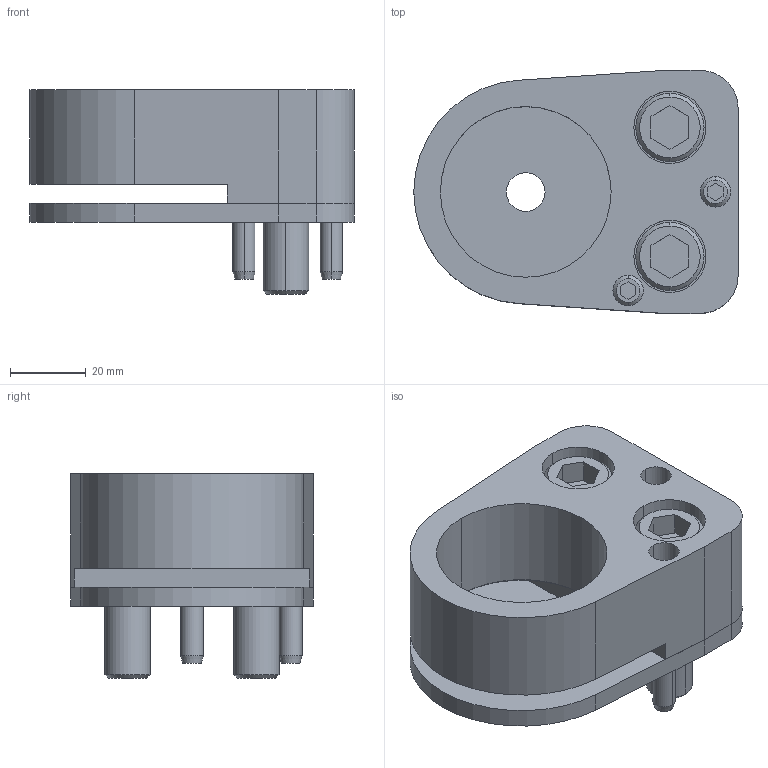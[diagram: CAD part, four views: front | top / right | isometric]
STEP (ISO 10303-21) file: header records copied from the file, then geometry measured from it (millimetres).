
FILE_DESCRIPTION(/* description */ (''),/* implementation_level */ '2;1');
FILE_NAME(/* name */ '3d_dp-fp45_02833_r00.stp',/* time_stamp */ '2011-01-10T14:15:55+09:00',/* author */ ('MISUMI'),/* organization */ (''),/* preprocessor_version */ 'ST-DEVELOPER v11',/* originating_system */ 'UGS - NX 5.0',/* authorisation */ '');
FILE_SCHEMA (('CONFIG_CONTROL_DESIGN'));
Length unit declared in the file: millimetre
Products named in the file (1): 3d_dp-fp45_02833_r00
Bounding box: 85.5 x 64 x 54 mm (x, y, z)
Volume: 114507.4 mm3; surface area: 39686.5 mm2
Topology: 8 solids, 8 shells, 154 faces, 350 edges, 225 vertices
Faces by surface type: plane 68, cylinder 60, cone 26
Entity records: 4494 total; most frequent: DIRECTION 802, CARTESIAN_POINT 781, ORIENTED_EDGE 700, EDGE_CURVE 350, AXIS2_PLACEMENT_3D 302, VERTEX_POINT 225, LINE 198, VECTOR 198
